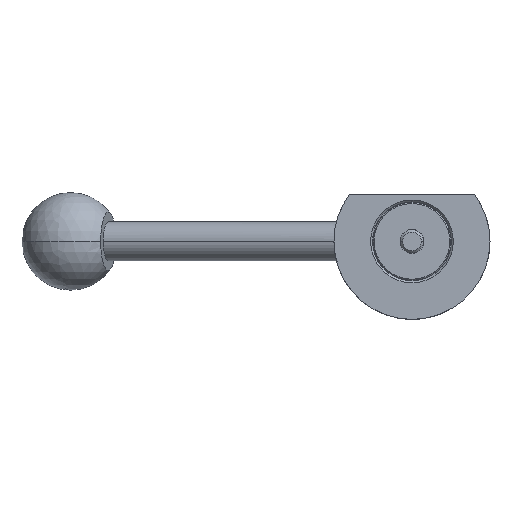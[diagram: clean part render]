
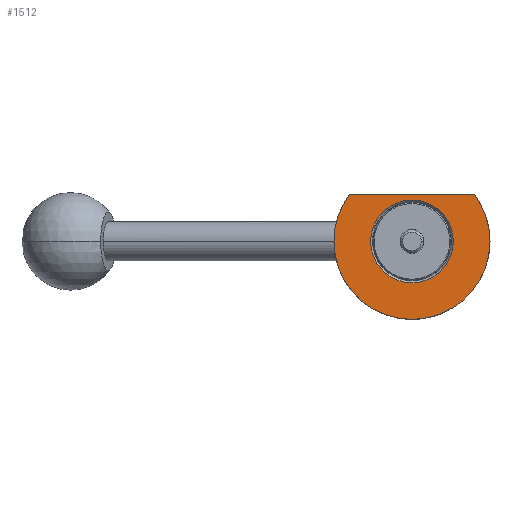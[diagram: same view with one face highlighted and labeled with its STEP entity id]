
A CAD part, front view. The second image highlights one B-rep face of the part: STEP entity #1512.
In plain terms, the highlighted planar face has unit normal (0, -1, 0).
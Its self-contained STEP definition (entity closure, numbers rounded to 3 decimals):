
#148 = DIRECTION ( 'NONE',  ( 1., 0., 0. ) ) ;
#183 = DIRECTION ( 'NONE',  ( -1., 0., 0. ) ) ;
#220 = VERTEX_POINT ( 'NONE', #819 ) ;
#277 = CARTESIAN_POINT ( 'NONE',  ( 0., -10., 0. ) ) ;
#305 = CARTESIAN_POINT ( 'NONE',  ( 20., -10., 0. ) ) ;
#324 = CARTESIAN_POINT ( 'NONE',  ( -10.6, -10., 0. ) ) ;
#344 = VERTEX_POINT ( 'NONE', #305 ) ;
#367 = DIRECTION ( 'NONE',  ( -1., 0., 0. ) ) ;
#393 = ORIENTED_EDGE ( 'NONE', *, *, #1253, .F. ) ;
#436 = CARTESIAN_POINT ( 'NONE',  ( -16.001, -10., 11.999 ) ) ;
#449 = EDGE_CURVE ( 'NONE', #1270, #737, #1675, .T. ) ;
#463 = LINE ( 'NONE', #592, #765 ) ;
#479 = ORIENTED_EDGE ( 'NONE', *, *, #2034, .F. ) ;
#480 = DIRECTION ( 'NONE',  ( 0., 1., 0. ) ) ;
#503 = AXIS2_PLACEMENT_3D ( 'NONE', #1771, #480, #1125 ) ;
#513 = VERTEX_POINT ( 'NONE', #436 ) ;
#552 = EDGE_CURVE ( 'NONE', #344, #564, #1846, .T. ) ;
#564 = VERTEX_POINT ( 'NONE', #1763 ) ;
#592 = CARTESIAN_POINT ( 'NONE',  ( -10.6, -10., 11.999 ) ) ;
#601 = CARTESIAN_POINT ( 'NONE',  ( 10.6, -10., 0. ) ) ;
#628 = FACE_OUTER_BOUND ( 'NONE', #1205, .T. ) ;
#632 = AXIS2_PLACEMENT_3D ( 'NONE', #1275, #1611, #183 ) ;
#697 = CIRCLE ( 'NONE', #1877, 10.6 ) ;
#737 = VERTEX_POINT ( 'NONE', #601 ) ;
#749 = DIRECTION ( 'NONE',  ( 0., 1., 0. ) ) ;
#752 = EDGE_CURVE ( 'NONE', #737, #1270, #697, .T. ) ;
#764 = EDGE_CURVE ( 'NONE', #220, #513, #463, .T. ) ;
#765 = VECTOR ( 'NONE', #1375, 1000. ) ;
#767 = DIRECTION ( 'NONE',  ( -1., 0., 0. ) ) ;
#793 = AXIS2_PLACEMENT_3D ( 'NONE', #1055, #749, #1377 ) ;
#819 = CARTESIAN_POINT ( 'NONE',  ( 16.001, -10., 11.999 ) ) ;
#948 = DIRECTION ( 'NONE',  ( 0., -1., 0. ) ) ;
#1046 = EDGE_LOOP ( 'NONE', ( #1556, #1461 ) ) ;
#1055 = CARTESIAN_POINT ( 'NONE',  ( 0., -10., 0. ) ) ;
#1082 = CARTESIAN_POINT ( 'NONE',  ( 0., -10., 0. ) ) ;
#1125 = DIRECTION ( 'NONE',  ( -1., 0., 0. ) ) ;
#1205 = EDGE_LOOP ( 'NONE', ( #479, #1666, #393, #1778 ) ) ;
#1231 = DIRECTION ( 'NONE',  ( 0., 1., 0. ) ) ;
#1253 = EDGE_CURVE ( 'NONE', #564, #513, #1430, .T. ) ;
#1270 = VERTEX_POINT ( 'NONE', #1837 ) ;
#1271 = FACE_BOUND ( 'NONE', #1046, .T. ) ;
#1275 = CARTESIAN_POINT ( 'NONE',  ( 0., -10., 0. ) ) ;
#1365 = CIRCLE ( 'NONE', #1884, 20. ) ;
#1375 = DIRECTION ( 'NONE',  ( -1., 0., 0. ) ) ;
#1377 = DIRECTION ( 'NONE',  ( -1., 0., 0. ) ) ;
#1430 = CIRCLE ( 'NONE', #632, 20. ) ;
#1461 = ORIENTED_EDGE ( 'NONE', *, *, #449, .T. ) ;
#1507 = AXIS2_PLACEMENT_3D ( 'NONE', #324, #948, #148 ) ;
#1512 = ADVANCED_FACE ( 'NONE', ( #1271, #628 ), #2062, .T. ) ;
#1556 = ORIENTED_EDGE ( 'NONE', *, *, #752, .T. ) ;
#1611 = DIRECTION ( 'NONE',  ( 0., 1., 0. ) ) ;
#1666 = ORIENTED_EDGE ( 'NONE', *, *, #764, .T. ) ;
#1675 = CIRCLE ( 'NONE', #503, 10.6 ) ;
#1763 = CARTESIAN_POINT ( 'NONE',  ( -20., -10., 0. ) ) ;
#1771 = CARTESIAN_POINT ( 'NONE',  ( 0., -10., 0. ) ) ;
#1778 = ORIENTED_EDGE ( 'NONE', *, *, #552, .F. ) ;
#1837 = CARTESIAN_POINT ( 'NONE',  ( -10.6, -10., 0. ) ) ;
#1846 = CIRCLE ( 'NONE', #793, 20. ) ;
#1877 = AXIS2_PLACEMENT_3D ( 'NONE', #1082, #1231, #767 ) ;
#1884 = AXIS2_PLACEMENT_3D ( 'NONE', #277, #1904, #367 ) ;
#1904 = DIRECTION ( 'NONE',  ( 0., 1., 0. ) ) ;
#2034 = EDGE_CURVE ( 'NONE', #220, #344, #1365, .T. ) ;
#2062 = PLANE ( 'NONE',  #1507 ) ;
